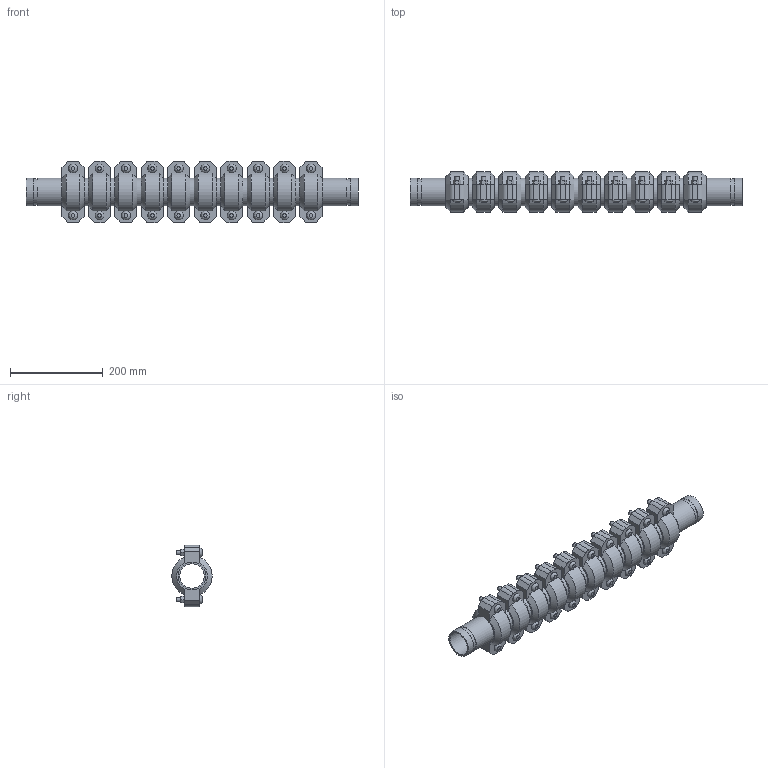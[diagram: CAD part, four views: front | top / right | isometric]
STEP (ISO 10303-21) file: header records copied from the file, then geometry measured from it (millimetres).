
FILE_DESCRIPTION(/* description */ ('VIC EXPANSION JOINT 10 COUPLINGS COMPRESSED STYLE 155 (OGS)','CAx-IF Rec.Pracs.---Representation and Presentation of Product Manufacturing Information (PMI)---4.0---2014-10-13'),/* implementation_level */ '2;1');
FILE_NAME(/* name */ 'C:\Users\kkamble\AppData\Roaming\Autodesk\ApplicationPlugins\Victaulic.Temp\A539\Victaulic_IPS_Expansion Joint_Compressed_10 Couplings_Style 155 (OGS)_2 (50).stp',/* time_stamp */ '2021-06-27T00:16:23+02:00',/* author */ ('kkamble'),/* organization */ ('Victaulic'),/* preprocessor_version */ 'ST-DEVELOPER v17.2',/* originating_system */ 'Autodesk Inventor 2019',/* authorisation */ '');
FILE_SCHEMA (('AP242_MANAGED_MODEL_BASED_3D_ENGINEERING_MIM_LF { 1 0 10303 442 1 1 4 }'));
Length unit declared in the file: inch
Products named in the file (4): 155-02.0; Nipple-02.0; Nipple-02.0_1; 075-02.0
Assembly tree (21 placements, depth 2):
  155-02.0
    Nipple-02.0  x2
    Nipple-02.0_1  x9
    075-02.0  x10
Bounding box: 717.55 x 87.12 x 132.59 mm (x, y, z)
Volume: 2446083.5 mm3; surface area: 667969.5 mm2
Topology: 21 solids, 41 shells, 662 faces, 1600 edges, 1124 vertices
Faces by surface type: plane 406, cylinder 196, cone 40, bspline 20
Full cylindrical faces by diameter (mm): 9.525 x40, 11.43 x20, 52.502 x11, 57.15 x22, 60.325 x43
Entity records: 2787 total; most frequent: CARTESIAN_POINT 491, DIRECTION 467, ORIENTED_EDGE 374, AXIS2_PLACEMENT_3D 188, EDGE_CURVE 187, VERTEX_POINT 134, EDGE_LOOP 101, LINE 91
